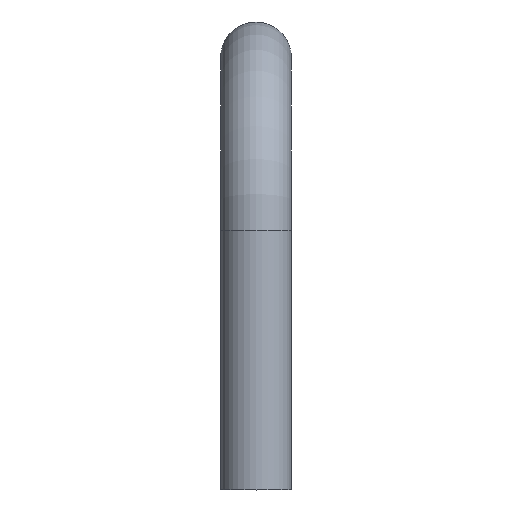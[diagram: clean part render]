
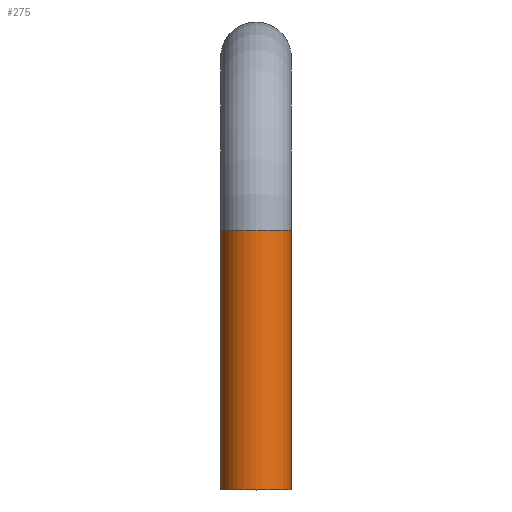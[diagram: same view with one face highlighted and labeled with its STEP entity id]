
A CAD part, left-side view. The second image highlights one B-rep face of the part: STEP entity #275.
In plain terms, the highlighted cylindrical face has radius 0.409 mm (diameter 0.818 mm), a full revolution.
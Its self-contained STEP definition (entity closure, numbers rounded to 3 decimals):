
#209 = TOROIDAL_SURFACE('',#210,2.,0.409);
#210 = AXIS2_PLACEMENT_3D('',#211,#212,#213);
#211 = CARTESIAN_POINT('',(2.,0.,0.));
#212 = DIRECTION('',(0.,-1.,0.));
#213 = DIRECTION('',(1.,0.,0.));
#226 = VERTEX_POINT('',#227);
#227 = CARTESIAN_POINT('',(0.409,0.,0.)
  );
#248 = EDGE_CURVE('',#226,#226,#249,.T.);
#249 = SURFACE_CURVE('',#250,(#255,#262),.PCURVE_S1.);
#250 = CIRCLE('',#251,0.409);
#251 = AXIS2_PLACEMENT_3D('',#252,#253,#254);
#252 = CARTESIAN_POINT('',(0.,0.,0.));
#253 = DIRECTION('',(0.,0.,1.));
#254 = DIRECTION('',(-1.,0.,0.));
#255 = PCURVE('',#209,#256);
#256 = DEFINITIONAL_REPRESENTATION('',(#257),#261);
#257 = LINE('',#258,#259);
#258 = CARTESIAN_POINT('',(3.142,0.));
#259 = VECTOR('',#260,1.);
#260 = DIRECTION('',(0.,1.));
#261 = ( GEOMETRIC_REPRESENTATION_CONTEXT(2) 
PARAMETRIC_REPRESENTATION_CONTEXT() REPRESENTATION_CONTEXT('2D SPACE',''
  ) );
#262 = PCURVE('',#263,#268);
#263 = CYLINDRICAL_SURFACE('',#264,0.409);
#264 = AXIS2_PLACEMENT_3D('',#265,#266,#267);
#265 = CARTESIAN_POINT('',(0.,0.,0.));
#266 = DIRECTION('',(0.,0.,-1.));
#267 = DIRECTION('',(1.,0.,0.));
#268 = DEFINITIONAL_REPRESENTATION('',(#269),#272);
#269 = B_SPLINE_CURVE_WITH_KNOTS('',1,(#270,#271),.UNSPECIFIED.,.F.,.F.,
  (2,2),(3.142,9.425),.PIECEWISE_BEZIER_KNOTS.);
#270 = CARTESIAN_POINT('',(6.283,0.));
#271 = CARTESIAN_POINT('',(0.,0.));
#272 = ( GEOMETRIC_REPRESENTATION_CONTEXT(2) 
PARAMETRIC_REPRESENTATION_CONTEXT() REPRESENTATION_CONTEXT('2D SPACE',''
  ) );
#275 = ADVANCED_FACE('',(#276),#263,.T.);
#276 = FACE_BOUND('',#277,.T.);
#277 = EDGE_LOOP('',(#278,#300,#326,#327));
#278 = ORIENTED_EDGE('',*,*,#279,.T.);
#279 = EDGE_CURVE('',#226,#280,#282,.T.);
#280 = VERTEX_POINT('',#281);
#281 = CARTESIAN_POINT('',(0.409,0.,-3.));
#282 = SEAM_CURVE('',#283,(#287,#294),.PCURVE_S1.);
#283 = LINE('',#284,#285);
#284 = CARTESIAN_POINT('',(0.409,0.,0.
    ));
#285 = VECTOR('',#286,1.);
#286 = DIRECTION('',(0.,0.,-1.));
#287 = PCURVE('',#263,#288);
#288 = DEFINITIONAL_REPRESENTATION('',(#289),#293);
#289 = LINE('',#290,#291);
#290 = CARTESIAN_POINT('',(6.283,0.));
#291 = VECTOR('',#292,1.);
#292 = DIRECTION('',(0.,1.));
#293 = ( GEOMETRIC_REPRESENTATION_CONTEXT(2) 
PARAMETRIC_REPRESENTATION_CONTEXT() REPRESENTATION_CONTEXT('2D SPACE',''
  ) );
#294 = PCURVE('',#263,#295);
#295 = DEFINITIONAL_REPRESENTATION('',(#296),#299);
#296 = B_SPLINE_CURVE_WITH_KNOTS('',1,(#297,#298),.UNSPECIFIED.,.F.,.F.,
  (2,2),(0.,3.),.PIECEWISE_BEZIER_KNOTS.);
#297 = CARTESIAN_POINT('',(0.,0.));
#298 = CARTESIAN_POINT('',(0.,3.));
#299 = ( GEOMETRIC_REPRESENTATION_CONTEXT(2) 
PARAMETRIC_REPRESENTATION_CONTEXT() REPRESENTATION_CONTEXT('2D SPACE',''
  ) );
#300 = ORIENTED_EDGE('',*,*,#301,.T.);
#301 = EDGE_CURVE('',#280,#280,#302,.T.);
#302 = SURFACE_CURVE('',#303,(#308,#314),.PCURVE_S1.);
#303 = CIRCLE('',#304,0.409);
#304 = AXIS2_PLACEMENT_3D('',#305,#306,#307);
#305 = CARTESIAN_POINT('',(0.,0.,-3.));
#306 = DIRECTION('',(0.,0.,1.));
#307 = DIRECTION('',(1.,0.,0.));
#308 = PCURVE('',#263,#309);
#309 = DEFINITIONAL_REPRESENTATION('',(#310),#313);
#310 = B_SPLINE_CURVE_WITH_KNOTS('',1,(#311,#312),.UNSPECIFIED.,.F.,.F.,
  (2,2),(0.,6.283),.PIECEWISE_BEZIER_KNOTS.);
#311 = CARTESIAN_POINT('',(6.283,3.));
#312 = CARTESIAN_POINT('',(0.,3.));
#313 = ( GEOMETRIC_REPRESENTATION_CONTEXT(2) 
PARAMETRIC_REPRESENTATION_CONTEXT() REPRESENTATION_CONTEXT('2D SPACE',''
  ) );
#314 = PCURVE('',#315,#320);
#315 = PLANE('',#316);
#316 = AXIS2_PLACEMENT_3D('',#317,#318,#319);
#317 = CARTESIAN_POINT('',(0.,0.,-3.)
  );
#318 = DIRECTION('',(0.,0.,1.));
#319 = DIRECTION('',(1.,0.,0.));
#320 = DEFINITIONAL_REPRESENTATION('',(#321),#325);
#321 = CIRCLE('',#322,0.409);
#322 = AXIS2_PLACEMENT_2D('',#323,#324);
#323 = CARTESIAN_POINT('',(0.,0.));
#324 = DIRECTION('',(1.,0.));
#325 = ( GEOMETRIC_REPRESENTATION_CONTEXT(2) 
PARAMETRIC_REPRESENTATION_CONTEXT() REPRESENTATION_CONTEXT('2D SPACE',''
  ) );
#326 = ORIENTED_EDGE('',*,*,#279,.F.);
#327 = ORIENTED_EDGE('',*,*,#248,.F.);
